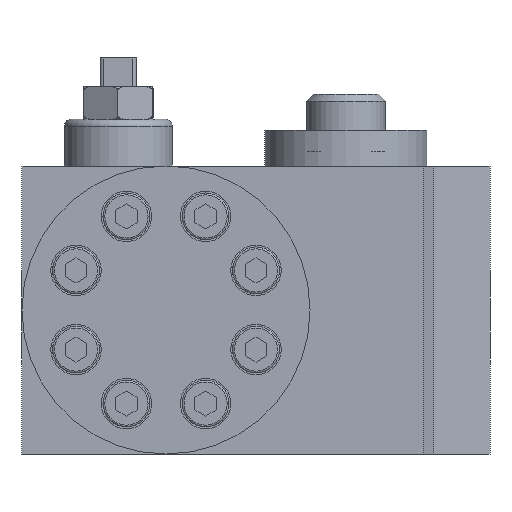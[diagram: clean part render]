
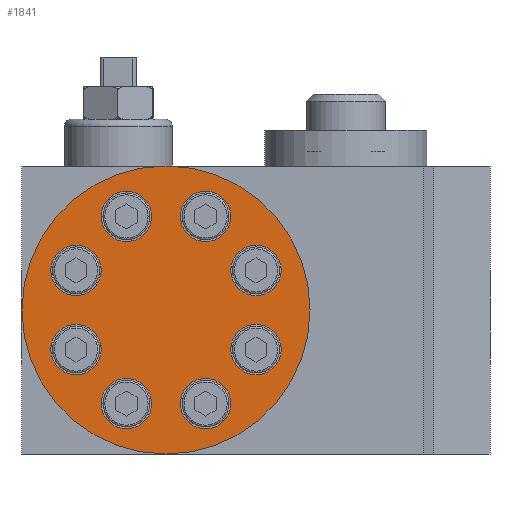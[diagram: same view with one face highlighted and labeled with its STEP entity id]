
A CAD part, left-side view. The second image highlights one B-rep face of the part: STEP entity #1841.
In plain terms, the highlighted planar face has unit normal (-1, 0, 0).
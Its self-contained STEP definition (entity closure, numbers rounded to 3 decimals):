
#488=PLANE('',#11766);
#1107=FACE_BOUND('',#3297,.T.);
#1108=FACE_BOUND('',#3298,.T.);
#1109=FACE_BOUND('',#3299,.T.);
#1110=FACE_BOUND('',#3300,.T.);
#1111=FACE_BOUND('',#3301,.T.);
#1112=FACE_BOUND('',#3302,.T.);
#1113=FACE_BOUND('',#3303,.T.);
#1114=FACE_BOUND('',#3304,.T.);
#1115=FACE_BOUND('',#3305,.T.);
#1841=ADVANCED_FACE('',(#1107,#1108,#1109,#1110,#1111,#1112,#1113,#1114,
#1115),#488,.F.);
#3297=EDGE_LOOP('',(#5791));
#3298=EDGE_LOOP('',(#5792));
#3299=EDGE_LOOP('',(#5793));
#3300=EDGE_LOOP('',(#5794));
#3301=EDGE_LOOP('',(#5795));
#3302=EDGE_LOOP('',(#5796));
#3303=EDGE_LOOP('',(#5797));
#3304=EDGE_LOOP('',(#5798));
#3305=EDGE_LOOP('',(#5799));
#4285=CIRCLE('',#11755,40.);
#4287=CIRCLE('',#11758,7.);
#4288=CIRCLE('',#11759,7.);
#4289=CIRCLE('',#11760,7.);
#4290=CIRCLE('',#11761,7.);
#4291=CIRCLE('',#11762,7.);
#4292=CIRCLE('',#11763,7.);
#4293=CIRCLE('',#11764,7.);
#4294=CIRCLE('',#11765,7.);
#5791=ORIENTED_EDGE('',*,*,#8925,.T.);
#5792=ORIENTED_EDGE('',*,*,#8926,.T.);
#5793=ORIENTED_EDGE('',*,*,#8927,.T.);
#5794=ORIENTED_EDGE('',*,*,#8928,.T.);
#5795=ORIENTED_EDGE('',*,*,#8929,.T.);
#5796=ORIENTED_EDGE('',*,*,#8930,.T.);
#5797=ORIENTED_EDGE('',*,*,#8931,.T.);
#5798=ORIENTED_EDGE('',*,*,#8932,.T.);
#5799=ORIENTED_EDGE('',*,*,#8923,.F.);
#7731=VERTEX_POINT('',#40352);
#7733=VERTEX_POINT('',#40357);
#7734=VERTEX_POINT('',#40359);
#7735=VERTEX_POINT('',#40361);
#7736=VERTEX_POINT('',#40363);
#7737=VERTEX_POINT('',#40365);
#7738=VERTEX_POINT('',#40367);
#7739=VERTEX_POINT('',#40369);
#7740=VERTEX_POINT('',#40371);
#8923=EDGE_CURVE('',#7731,#7731,#4285,.T.);
#8925=EDGE_CURVE('',#7733,#7733,#4287,.T.);
#8926=EDGE_CURVE('',#7734,#7734,#4288,.T.);
#8927=EDGE_CURVE('',#7735,#7735,#4289,.T.);
#8928=EDGE_CURVE('',#7736,#7736,#4290,.T.);
#8929=EDGE_CURVE('',#7737,#7737,#4291,.T.);
#8930=EDGE_CURVE('',#7738,#7738,#4292,.T.);
#8931=EDGE_CURVE('',#7739,#7739,#4293,.T.);
#8932=EDGE_CURVE('',#7740,#7740,#4294,.T.);
#11755=AXIS2_PLACEMENT_3D('',#40351,#13780,#13781);
#11758=AXIS2_PLACEMENT_3D('',#40356,#13786,#13787);
#11759=AXIS2_PLACEMENT_3D('',#40358,#13788,#13789);
#11760=AXIS2_PLACEMENT_3D('',#40360,#13790,#13791);
#11761=AXIS2_PLACEMENT_3D('',#40362,#13792,#13793);
#11762=AXIS2_PLACEMENT_3D('',#40364,#13794,#13795);
#11763=AXIS2_PLACEMENT_3D('',#40366,#13796,#13797);
#11764=AXIS2_PLACEMENT_3D('',#40368,#13798,#13799);
#11765=AXIS2_PLACEMENT_3D('',#40370,#13800,#13801);
#11766=AXIS2_PLACEMENT_3D('',#40372,#13802,#13803);
#13780=DIRECTION('',(1.,0.,0.));
#13781=DIRECTION('',(0.,1.,0.));
#13786=DIRECTION('',(1.,0.,0.));
#13787=DIRECTION('',(0.,0.,-1.));
#13788=DIRECTION('',(1.,0.,0.));
#13789=DIRECTION('',(0.,0.,-1.));
#13790=DIRECTION('',(1.,0.,0.));
#13791=DIRECTION('',(0.,0.,-1.));
#13792=DIRECTION('',(1.,0.,0.));
#13793=DIRECTION('',(0.,0.,-1.));
#13794=DIRECTION('',(1.,0.,0.));
#13795=DIRECTION('',(0.,0.,-1.));
#13796=DIRECTION('',(1.,0.,0.));
#13797=DIRECTION('',(0.,0.,-1.));
#13798=DIRECTION('',(1.,0.,0.));
#13799=DIRECTION('',(0.,0.,-1.));
#13800=DIRECTION('',(1.,0.,0.));
#13801=DIRECTION('',(0.,0.,-1.));
#13802=DIRECTION('',(1.,0.,0.));
#13803=DIRECTION('',(0.,0.,-1.));
#40351=CARTESIAN_POINT('',(-92.,48.,40.));
#40352=CARTESIAN_POINT('',(-92.,88.,40.));
#40356=CARTESIAN_POINT('',(-92.,59.,66.));
#40357=CARTESIAN_POINT('',(-92.,59.,59.));
#40358=CARTESIAN_POINT('',(-92.,59.,14.));
#40359=CARTESIAN_POINT('',(-92.,59.,7.));
#40360=CARTESIAN_POINT('',(-92.,37.,14.));
#40361=CARTESIAN_POINT('',(-92.,37.,7.));
#40362=CARTESIAN_POINT('',(-92.,37.,66.));
#40363=CARTESIAN_POINT('',(-92.,37.,59.));
#40364=CARTESIAN_POINT('',(-92.,73.,51.));
#40365=CARTESIAN_POINT('',(-92.,73.,44.));
#40366=CARTESIAN_POINT('',(-92.,73.,29.));
#40367=CARTESIAN_POINT('',(-92.,73.,22.));
#40368=CARTESIAN_POINT('',(-92.,23.,29.));
#40369=CARTESIAN_POINT('',(-92.,23.,22.));
#40370=CARTESIAN_POINT('',(-92.,23.,51.));
#40371=CARTESIAN_POINT('',(-92.,23.,44.));
#40372=CARTESIAN_POINT('',(-92.,48.,40.));
